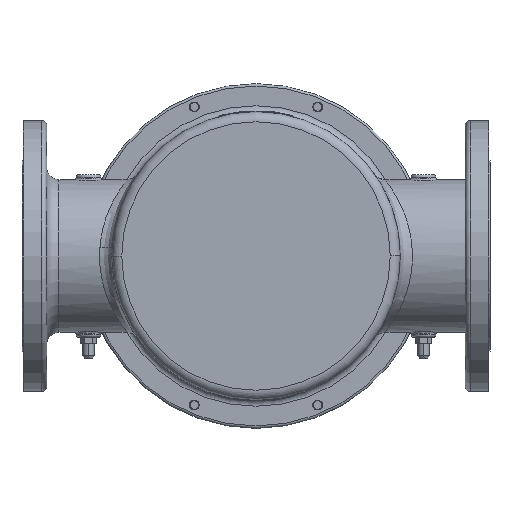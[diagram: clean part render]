
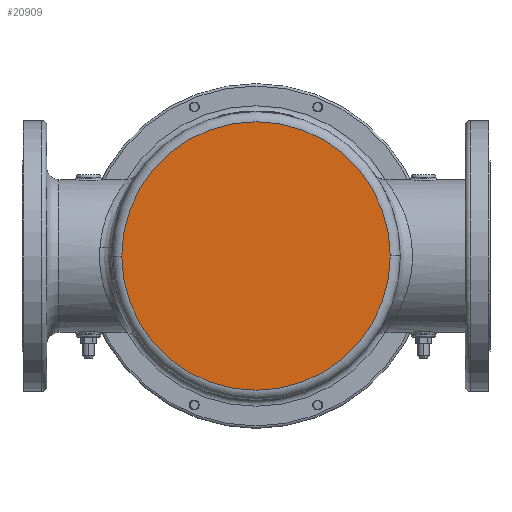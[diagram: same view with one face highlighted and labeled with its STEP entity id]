
A CAD part, front view. The second image highlights one B-rep face of the part: STEP entity #20909.
In plain terms, the highlighted planar face has unit normal (0, -1, 0).
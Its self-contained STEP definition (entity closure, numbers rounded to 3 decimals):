
#1049 = CARTESIAN_POINT ( 'NONE',  ( -109., -230., 0. ) ) ;
#2639 = CARTESIAN_POINT ( 'NONE',  ( 0., -230., 0. ) ) ;
#2776 = DIRECTION ( 'NONE',  ( 1., 0., 0. ) ) ;
#4482 = VERTEX_POINT ( 'NONE', #21395 ) ;
#5492 = DIRECTION ( 'NONE',  ( -1., 0., 0. ) ) ;
#5503 = PLANE ( 'NONE',  #17716 ) ;
#5886 = CIRCLE ( 'NONE', #16516, 109. ) ;
#7153 = EDGE_CURVE ( 'NONE', #18758, #4482, #35776, .T. ) ;
#8303 = AXIS2_PLACEMENT_3D ( 'NONE', #12531, #31984, #15312 ) ;
#8417 = FACE_OUTER_BOUND ( 'NONE', #15541, .T. ) ;
#11151 = CARTESIAN_POINT ( 'NONE',  ( -109., -230., 0. ) ) ;
#12531 = CARTESIAN_POINT ( 'NONE',  ( 0., -230., 0. ) ) ;
#15312 = DIRECTION ( 'NONE',  ( -1., 0., 0. ) ) ;
#15541 = EDGE_LOOP ( 'NONE', ( #27911, #33240 ) ) ;
#16516 = AXIS2_PLACEMENT_3D ( 'NONE', #2639, #22076, #5492 ) ;
#17716 = AXIS2_PLACEMENT_3D ( 'NONE', #11151, #19479, #2776 ) ;
#18317 = EDGE_CURVE ( 'NONE', #4482, #18758, #5886, .T. ) ;
#18758 = VERTEX_POINT ( 'NONE', #1049 ) ;
#19479 = DIRECTION ( 'NONE',  ( 0., -1., 0. ) ) ;
#20909 = ADVANCED_FACE ( 'NONE', ( #8417 ), #5503, .T. ) ;
#21395 = CARTESIAN_POINT ( 'NONE',  ( 109., -230., 0. ) ) ;
#22076 = DIRECTION ( 'NONE',  ( 0., 1., 0. ) ) ;
#27911 = ORIENTED_EDGE ( 'NONE', *, *, #7153, .F. ) ;
#31984 = DIRECTION ( 'NONE',  ( 0., 1., 0. ) ) ;
#33240 = ORIENTED_EDGE ( 'NONE', *, *, #18317, .F. ) ;
#35776 = CIRCLE ( 'NONE', #8303, 109. ) ;
